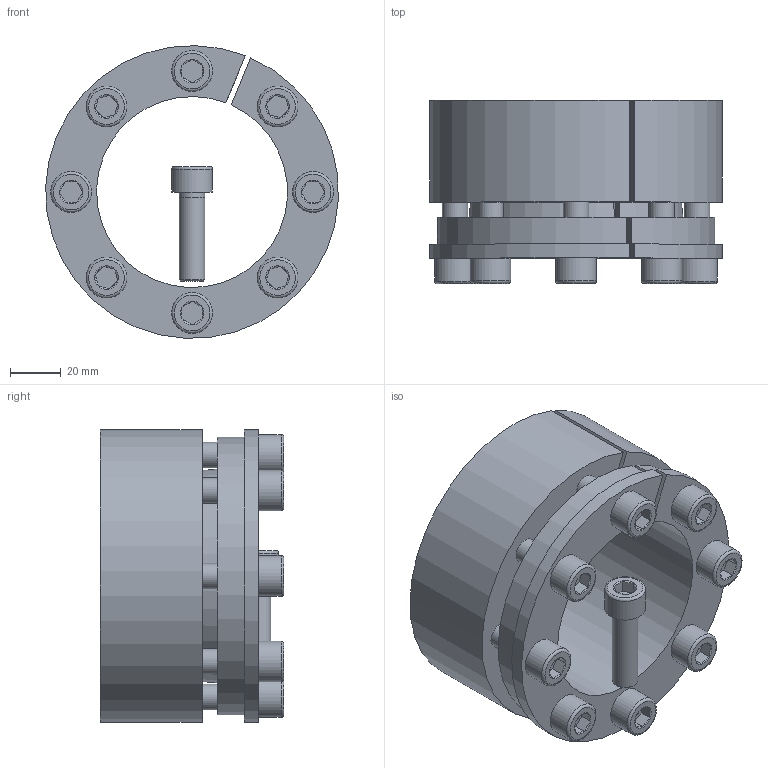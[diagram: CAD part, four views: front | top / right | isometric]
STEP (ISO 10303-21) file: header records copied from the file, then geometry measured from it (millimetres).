
FILE_DESCRIPTION( ( 'Unknown' ), '1' );
FILE_NAME( 'C:/Dokumente und Einstellungen/Sven/Desktop/homepage/cad - homepage/KBS70/KBS 70 - 75 x 115.stp', 'Unknown', ( 'Unknown' ), ( 'Unknown' ), 'XStep 1.0', 'Unknown', ' ' );
FILE_SCHEMA( ( 'automotive_design' ) );
Length unit declared in the file: millimetre
Products named in the file (3): Assem1; KBS 70 - 75 x 115; ISO EN DIN 4762 M10x35
Bounding box: 114.87 x 72 x 114.92 mm (x, y, z)
Volume: 622840.8 mm3; surface area: 162002.9 mm2
Topology: 11 solids, 11 shells, 285 faces, 583 edges, 356 vertices
Faces by surface type: plane 124, cylinder 76, cone 67, torus 18
Full cylindrical faces by diameter (mm): 9 x9, 10 x50, 16 x9
Entity records: 1882 total; most frequent: CARTESIAN_POINT 305, DIRECTION 284, ORIENTED_EDGE 206, AXIS2_PLACEMENT_3D 126, EDGE_LOOP 114, EDGE_CURVE 103, VERTEX_POINT 79, FACE_OUTER_BOUND 77
